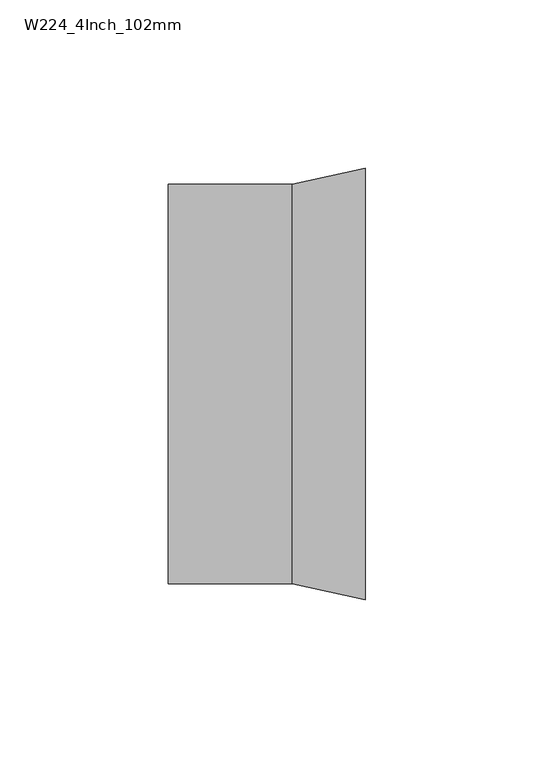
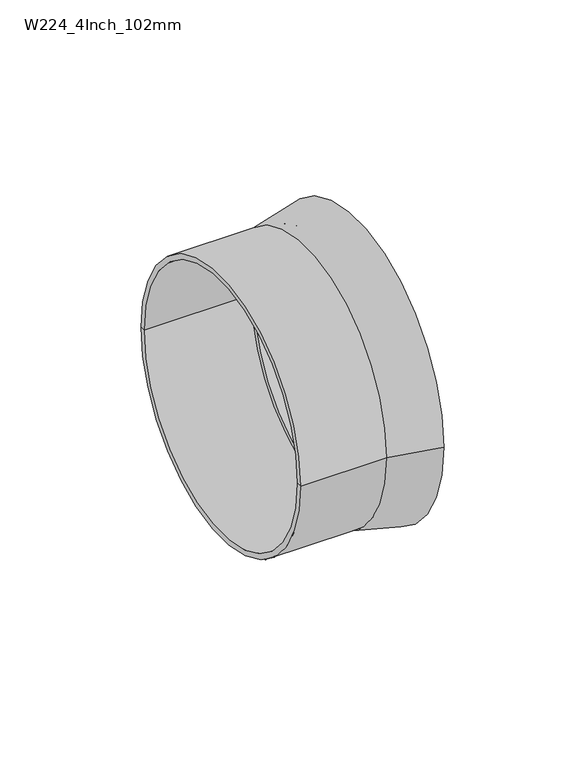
"""IFC4 building model written with IfcOpenShell, lengths in millimetres: pipe fitting geometry, Durapipe_PipeFitting_VulcatheneMechanical_Olive_W22 : W224_4Inch_102mm."""

import ifcopenshell
import ifcopenshell.guid

model = None  # the IFC model being written
_history = None  # IfcOwnerHistory: only IFC2X3 demands one
_inside = {}  # id of a spatial element -> (the spatial element, [elements in it])
_under = {}  # id of a project, library or spatial element -> (it, [spatial elements below it])
_declared = {}  # id of a project -> (the project, [libraries it declares])
_typed = {}  # id of a type object -> (the type object, [elements of that type])
_made_of = {}  # id of a material, layer set ... -> (it, [elements and type objects made of it])


def new_model(schema):
    """Start an empty IFC model of exactly this schema.

    Asked for "IFC4X3", IfcOpenShell would pick the latest addendum, in which some entities
    have other attributes; the version numbers below select the first issue.
    IFC2X3 requires an IfcOwnerHistory on every rooted entity: one is made here for all.
    """
    global model, _history
    if schema == "IFC4X3":
        model = ifcopenshell.file(schema_version=(4, 3, 0, 0))
    else:
        model = ifcopenshell.file(schema=schema)
    _inside.clear()
    _under.clear()
    _declared.clear()
    _typed.clear()
    _made_of.clear()
    _history = None
    if model.schema == "IFC2X3":
        org = make("IfcOrganization", Name="unknown")
        user = make(
            "IfcPersonAndOrganization",
            ThePerson=make("IfcPerson", FamilyName="unknown"),
            TheOrganization=org,
        )
        app = make(
            "IfcApplication",
            ApplicationDeveloper=org,
            Version="unknown",
            ApplicationFullName="unknown",
            ApplicationIdentifier="unknown",
        )
        _history = make(
            "IfcOwnerHistory",
            OwningUser=user,
            OwningApplication=app,
            ChangeAction="ADDED",
            CreationDate=0,
        )
    return model


def make(cls, **values):
    """One entity of the class cls with the attributes given. An attribute that is None is left unset."""
    return model.create_entity(
        cls, **{name: value for name, value in values.items() if value is not None}
    )


def rooted(cls, **values):
    """An entity with a GlobalId (a new one), such as an element, a storey or a relation."""
    return make(cls, GlobalId=ifcopenshell.guid.new(), OwnerHistory=_history, **values)


def si_unit(unit_type, name, prefix=None):
    """IfcSIUnit, for example si_unit("LENGTHUNIT", "METRE", prefix="MILLI")."""
    return make("IfcSIUnit", UnitType=unit_type, Prefix=prefix, Name=name)


def assignment(units):
    """IfcUnitAssignment: the units of a project."""
    return None if units is None else make("IfcUnitAssignment", Units=units)


def point(xyz):
    """IfcCartesianPoint."""
    return None if xyz is None else make("IfcCartesianPoint", Coordinates=xyz)


def direction(xyz):
    """IfcDirection."""
    return None if xyz is None else make("IfcDirection", DirectionRatios=xyz)


def frame(location, z_axis=None, x_axis=None):
    """IfcAxis2Placement3D, a coordinate frame: its origin and axes. An axis left out is left unset."""
    return make(
        "IfcAxis2Placement3D",
        Location=point(location),
        Axis=direction(z_axis),
        RefDirection=direction(x_axis),
    )


def origin():
    """The frame at (0, 0, 0) with its axes left unset."""
    return frame((0.0, 0.0, 0.0))


def place(relative_to, where):
    """IfcLocalPlacement: puts the frame where relative to a parent placement (None: the world)."""
    return make(
        "IfcLocalPlacement", PlacementRelTo=relative_to, RelativePlacement=where
    )


def context(
    kind, dimensions, precision=None, world=None, true_north=None, identifier=None
):
    """IfcGeometricRepresentationContext, for example the 3D "Model" context."""
    return make(
        "IfcGeometricRepresentationContext",
        ContextIdentifier=identifier,
        ContextType=kind,
        CoordinateSpaceDimension=dimensions,
        Precision=precision,
        WorldCoordinateSystem=world,
        TrueNorth=true_north,
    )


def project(units=None, contexts=None):
    """IfcProject with its units and contexts."""
    return rooted(
        "IfcProject",
        Name="project",
        RepresentationContexts=contexts,
        UnitsInContext=assignment(units),
    )


def spatial(cls, under=None, at=None, **own):
    """A site, building, storey or space (cls), placed at a placement, below another one or the project."""
    s = rooted(cls, ObjectPlacement=at, **own)
    if under is not None:
        _under.setdefault(under.id(), (under, []))[1].append(s)
    return s


def polyline(points):
    """IfcPolyline through the points."""
    return make("IfcPolyline", Points=[point(p) for p in points])


def circle_curve(where, radius):
    """IfcCircle in the frame where."""
    return make("IfcCircle", Position=where, Radius=radius)


def shape(context_of_items, identifier, shape_type, items):
    """IfcShapeRepresentation: the items that make up one representation, for example the "Body"."""
    return make(
        "IfcShapeRepresentation",
        ContextOfItems=context_of_items,
        RepresentationIdentifier=identifier,
        RepresentationType=shape_type,
        Items=items,
    )


def source(mapping_origin, context_of_items, identifier, shape_type, items):
    """IfcRepresentationMap: a shape defined once, which mapped items show again and again."""
    return make(
        "IfcRepresentationMap",
        MappingOrigin=mapping_origin,
        MappedRepresentation=shape(context_of_items, identifier, shape_type, items),
    )


def transform(
    local_origin,
    x_axis=None,
    y_axis=None,
    z_axis=None,
    scale=None,
    scale2=None,
    scale3=None,
    uniform=True,
):
    """IfcCartesianTransformationOperator3D, or its non-uniform kind. x_axis, y_axis, z_axis: its Axis1, 2, 3."""
    if uniform:
        return make(
            "IfcCartesianTransformationOperator3D",
            Axis1=direction(x_axis),
            Axis2=direction(y_axis),
            LocalOrigin=point(local_origin),
            Scale=scale,
            Axis3=direction(z_axis),
        )
    return make(
        "IfcCartesianTransformationOperator3DnonUniform",
        Axis1=direction(x_axis),
        Axis2=direction(y_axis),
        LocalOrigin=point(local_origin),
        Scale=scale,
        Axis3=direction(z_axis),
        Scale2=scale2,
        Scale3=scale3,
    )


def mapped(mapping_source, mapping_target):
    """IfcMappedItem: shows the shape of a source again, moved by a transform."""
    return make(
        "IfcMappedItem", MappingSource=mapping_source, MappingTarget=mapping_target
    )


def made_of(thing, what):
    """Note that an element or type object is made of a material, layer set ...; save() writes the relation."""
    if what is not None:
        _made_of.setdefault(what.id(), (what, []))[1].append(thing)
    return thing


def element(
    cls,
    number,
    at=None,
    inside=None,
    cuts=None,
    type_object=None,
    material=None,
    context=None,
    identifier="Body",
    shape_type=None,
    held_by="IfcProductDefinitionShape",
    body=None,
    shapes=None,
    **own,
):
    """One element of the class cls, such as IfcWall. Its Tag is "e" and its number.

    at: its placement. inside: the storey or other place that contains it. cuts: it is an
    opening in that element (IfcRelVoidsElement). A single representation is given by context,
    identifier, shape_type and body (its items); several are given by shapes. held_by: the class
    of the entity that holds the representations. save() writes the other relations.
    """
    e = rooted(cls, Tag="e%d" % number, ObjectPlacement=at, **own)
    if body is not None:
        shapes = [shape(context, identifier, shape_type, body)]
    if shapes is not None:
        e.Representation = make(held_by, Representations=shapes)
    if inside is not None:
        _inside.setdefault(inside.id(), (inside, []))[1].append(e)
    if cuts is not None:
        rooted(
            "IfcRelVoidsElement", RelatingBuildingElement=cuts, RelatedOpeningElement=e
        )
    if type_object is not None:
        _typed.setdefault(type_object.id(), (type_object, []))[1].append(e)
    return made_of(e, material)


def aggregate(whole, parts):
    """IfcRelAggregates: a whole, such as a stair, and the parts it consists of."""
    return rooted("IfcRelAggregates", RelatingObject=whole, RelatedObjects=parts)


def save(model, path):
    """Write the relations noted so far, then the file.

    IfcRelAggregates (storeys below a building ...), IfcRelContainedInSpatialStructure (elements
    in a storey), IfcRelDefinesByType, IfcRelAssociatesMaterial and IfcRelDeclares: one each for
    every whole, place, type object, material and project.
    """
    for whole, parts in _under.values():
        aggregate(whole, parts)
    for where, things in _inside.values():
        rooted(
            "IfcRelContainedInSpatialStructure",
            RelatedElements=things,
            RelatingStructure=where,
        )
    for kind, things in _typed.values():
        rooted("IfcRelDefinesByType", RelatedObjects=things, RelatingType=kind)
    for what, things in _made_of.values():
        rooted("IfcRelAssociatesMaterial", RelatedObjects=things, RelatingMaterial=what)
    for by, libraries in _declared.values():
        rooted("IfcRelDeclares", RelatingContext=by, RelatedDefinitions=libraries)
    model.write(path)


def plane_surface(at):
    """IfcPlane: the flat surface through the origin of the frame at, square to its z axis."""
    return make("IfcPlane", Position=at)


def cylinder_surface(at, radius):
    """IfcCylindricalSurface: all points at the distance radius from the z axis of the frame at."""
    return make("IfcCylindricalSurface", Position=at, Radius=radius)


def revolved_surface(curve, axis_point, axis_direction):
    """IfcSurfaceOfRevolution: the curve turned about the line through axis_point along axis_direction."""
    return make(
        "IfcSurfaceOfRevolution",
        SweptCurve=make("IfcArbitraryOpenProfileDef", ProfileType="CURVE", Curve=curve),
        AxisPosition=make("IfcAxis1Placement", Location=point(axis_point), Axis=direction(axis_direction)),
    )


def advanced_brep(points, edges, surfaces, faces):
    """IfcAdvancedBrep: a solid bounded by faces that lie on surfaces and meet in shared edges.

    An edge is (start, end): straight between two places in points (the first is 0);
    or (start, end, curve); or (start, end, curve, False) where it runs against its curve.
    A face is (place in surfaces, loops), or (place, loops, False) where it looks against
    its surface's normal. A loop lists edges by number (the first is 1), with a minus sign
    where the edge is run from its end to its start. The first loop is the outer one.
    """
    corners = [point(p) for p in points]
    vertices = [make("IfcVertexPoint", VertexGeometry=c) for c in corners]
    made = []
    for start, end, *more in edges:
        made.append(
            make(
                "IfcEdgeCurve",
                EdgeStart=vertices[start],
                EdgeEnd=vertices[end],
                EdgeGeometry=more[0] if more else make("IfcPolyline", Points=[corners[start], corners[end]]),
                SameSense=more[1] if len(more) > 1 else True,
            )
        )
    hull = []
    for where, loops, *sense in faces:
        bounds = []
        for j, loop in enumerate(loops):
            ring = [make("IfcOrientedEdge", EdgeElement=made[abs(k) - 1], Orientation=k > 0) for k in loop]
            bounds.append(
                make(
                    "IfcFaceOuterBound" if j == 0 else "IfcFaceBound",
                    Bound=make("IfcEdgeLoop", EdgeList=ring),
                    Orientation=True,
                )
            )
        hull.append(make("IfcAdvancedFace", Bounds=bounds, FaceSurface=surfaces[where], SameSense=sense[0] if sense else True))
    return make("IfcAdvancedBrep", Outer=make("IfcClosedShell", CfsFaces=hull))


def w224_4inch_102mm_8a59da76(model_context):
    return source(origin(), model_context, "Body", "AdvancedBrep", [
        advanced_brep(
        [(29.35, -64.2, 0.0), (29.35, 64.2, 0.0), (29.35, 55.7, 0.0), (29.35, -55.7, 0.0), (7.55, -59.4, 0.0), (7.55, 59.4, 0.0), (-29.35, -59.4, 0.0), (-29.35, 59.4, 0.0), (-29.35, -57.1, 0.0), (-29.35, 57.1, 0.0), (16.65, -57.1, 0.0), (16.65, 57.1, 0.0), (16.65, -55.0, 0.0), (16.65, 55.0, 0.0), (21.15, -55.7, 0.0), (21.15, 55.7, 0.0), (21.15, 55.0, 0.0), (21.15, -55.0, 0.0)],
        [
            (0, 1, circle_curve(frame((29.35, 0.0, 0.0), z_axis=(1.0, 0.0, 0.0), x_axis=(0.0, 1.0, 0.0)), 64.2)),
            (1, 2),
            (2, 3, circle_curve(frame((29.35, 0.0, 0.0), z_axis=(-1.0, 0.0, 0.0), x_axis=(0.0, 1.0, 0.0)), 55.7)),
            (3, 0),
            (1, 0, circle_curve(frame((29.35, 0.0, 0.0), z_axis=(1.0, 0.0, 0.0), x_axis=(0.0, 1.0, 0.0)), 64.2)),
            (3, 2, circle_curve(frame((29.35, 0.0, 0.0), z_axis=(-1.0, 0.0, 0.0), x_axis=(0.0, 1.0, 0.0)), 55.7)),
            (0, 4),
            (4, 5, circle_curve(frame((7.55, 0.0, 0.0), z_axis=(1.0, 0.0, 0.0), x_axis=(0.0, 1.0, 0.0)), 59.4)),
            (5, 1),
            (5, 4, circle_curve(frame((7.55, 0.0, 0.0), z_axis=(1.0, 0.0, 0.0), x_axis=(0.0, 1.0, 0.0)), 59.4)),
            (6, 7, circle_curve(frame((-29.35, 0.0, 0.0), z_axis=(1.0, 0.0, 0.0), x_axis=(0.0, 1.0, 0.0)), 59.4)),
            (7, 5),
            (4, 6),
            (7, 6, circle_curve(frame((-29.35, 0.0, 0.0), z_axis=(1.0, 0.0, 0.0), x_axis=(0.0, 1.0, 0.0)), 59.4)),
            (6, 8),
            (8, 9, circle_curve(frame((-29.35, 0.0, 0.0), z_axis=(1.0, 0.0, 0.0), x_axis=(0.0, 1.0, 0.0)), 57.1)),
            (9, 7),
            (9, 8, circle_curve(frame((-29.35, 0.0, 0.0), z_axis=(1.0, 0.0, 0.0), x_axis=(0.0, 1.0, 0.0)), 57.1)),
            (8, 10),
            (10, 11, circle_curve(frame((16.65, 0.0, 0.0), z_axis=(1.0, 0.0, 0.0), x_axis=(0.0, 1.0, 0.0)), 57.1)),
            (11, 9),
            (11, 10, circle_curve(frame((16.65, 0.0, 0.0), z_axis=(1.0, 0.0, 0.0), x_axis=(0.0, 1.0, 0.0)), 57.1)),
            (10, 12),
            (12, 13, circle_curve(frame((16.65, 0.0, 0.0), z_axis=(1.0, 0.0, 0.0), x_axis=(0.0, 1.0, 0.0)), 55.0)),
            (13, 11),
            (13, 12, circle_curve(frame((16.65, 0.0, 0.0), z_axis=(1.0, 0.0, 0.0), x_axis=(0.0, 1.0, 0.0)), 55.0)),
            (14, 15, circle_curve(frame((21.15, 0.0, 0.0), z_axis=(1.0, 0.0, 0.0), x_axis=(0.0, 1.0, 0.0)), 55.7)),
            (15, 16),
            (16, 17, circle_curve(frame((21.15, 0.0, 0.0), z_axis=(-1.0, 0.0, 0.0), x_axis=(0.0, 1.0, 0.0)), 55.0)),
            (17, 14),
            (15, 14, circle_curve(frame((21.15, 0.0, 0.0), z_axis=(1.0, 0.0, 0.0), x_axis=(0.0, 1.0, 0.0)), 55.7)),
            (17, 16, circle_curve(frame((21.15, 0.0, 0.0), z_axis=(-1.0, 0.0, 0.0), x_axis=(0.0, 1.0, 0.0)), 55.0)),
            (2, 15),
            (14, 3),
            (12, 17),
            (16, 13),
        ],
        [
            plane_surface(frame((29.35, 0.0, 0.0), z_axis=(1.0, 0.0, 0.0), x_axis=(0.0, 1.0, 0.0))),
            revolved_surface(polyline([(29.35, 64.2, 0.0), (7.55, 59.4, 0.0)]), (34.35, 0.0, 0.0), (-1.0, 0.0, 0.0)),
            cylinder_surface(frame((-31.4206557, 0.0, 0.0), z_axis=(-1.0, 0.0, 0.0), x_axis=(0.0, 1.0, 0.0)), 59.4),
            plane_surface(frame((-29.35, 0.0, 0.0), z_axis=(-1.0, 0.0, 0.0), x_axis=(0.0, 1.0, 0.0))),
            revolved_surface(polyline([(-29.35, 57.1, 0.0), (16.65, 57.1, 0.0)]), (-32.842991, 0.0, 0.0), (-1.0, 0.0, 0.0)),
            plane_surface(frame((16.65, 0.0, 0.0), z_axis=(-1.0, 0.0, 0.0), x_axis=(0.0, 1.0, 0.0))),
            plane_surface(frame((21.15, 0.0, 0.0), z_axis=(1.0, 0.0, 0.0), x_axis=(0.0, 1.0, 0.0))),
            revolved_surface(polyline([(21.15, 55.7, 0.0), (29.35, 55.7, 0.0)]), (34.35, 0.0, 0.0), (-1.0, 0.0, 0.0)),
            revolved_surface(polyline([(16.65, 55.0, 0.0), (21.15, 55.0, 0.0)]), (30.9161924, 0.0, 0.0), (-1.0, 0.0, 0.0)),
        ],
        [
            (0, [[1, 2, 3, 4]]),
            (0, [[-2, 5, -4, 6]]),
            (1, [[-1, 7, 8, 9]]),
            (1, [[-5, -9, 10, -7]]),
            (2, [[11, 12, -8, 13]]),
            (2, [[-12, 14, -13, -10]]),
            (3, [[-11, 15, 16, 17]]),
            (3, [[-14, -17, 18, -15]]),
            (4, [[19, 20, 21, -16]]),
            (4, [[-19, -18, -21, 22]]),
            (5, [[-20, 23, 24, 25]]),
            (5, [[-22, -25, 26, -23]]),
            (6, [[27, 28, 29, 30]]),
            (6, [[31, -30, 32, -28]]),
            (7, [[-3, 33, -27, 34]]),
            (7, [[-6, -34, -31, -33]]),
            (8, [[35, -29, 36, -24]]),
            (8, [[-35, -26, -36, -32]]),
        ],
    ),
    ])


if __name__ == "__main__":
    model = new_model("IFC4")
    model_context = context("Model", 3, world=origin())
    ifc_project = project(units=[si_unit("LENGTHUNIT", "METRE", prefix="MILLI")], contexts=[model_context])
    site = spatial("IfcSite", under=ifc_project)
    building = spatial("IfcBuilding", under=site)
    placement = place(None, origin())
    w224_4inch_102mm_shape = w224_4inch_102mm_8a59da76(model_context)
    element("IfcPipeFitting", 1, ObjectType="Durapipe_PipeFitting_VulcatheneMechanical_Olive_W22 : W224_4Inch_102mm", at=placement, inside=building, context=model_context, shape_type="MappedRepresentation", body=[
        mapped(w224_4inch_102mm_shape, transform((0.0, 0.0, 0.0), x_axis=(1.0, 0.0, 0.0), y_axis=(0.0, 1.0, 0.0), z_axis=(0.0, 0.0, 1.0))),
    ])
    save(model, "model.ifc")
